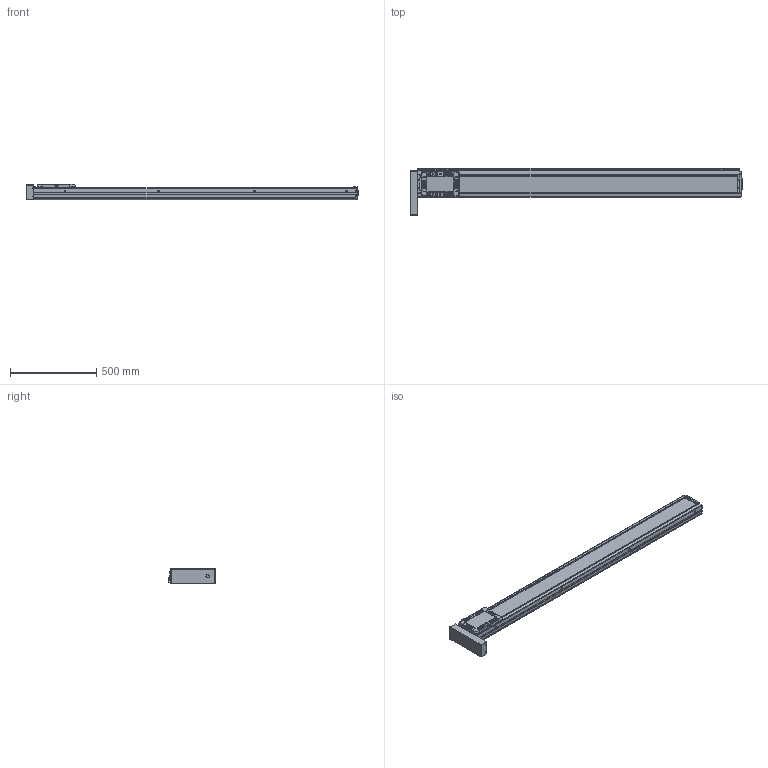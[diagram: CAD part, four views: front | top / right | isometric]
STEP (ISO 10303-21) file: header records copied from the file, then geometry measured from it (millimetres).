
FILE_DESCRIPTION(('STEP AP214'),'1');
FILE_NAME('Z:/Web/3D/SAN150/2013.04 (STP.)/SAN150ㅁㅁ-1600PR+3SL.stp','2013-05-07T08:25:35',(' '),(' '),'Spatial InterOp 3D',' ',' ');
FILE_SCHEMA(('automotive_design'));
Length unit declared in the file: millimetre
Products named in the file (62): M3.0 x 6.0; SRL-16x17-360L; SGD-SAN150; EE-SX674; SBK-SX674-352; 스크루 : Round - M3.0 x 6.0; BHCS M4.0 x 10.0; SLBL-SAN150; SLCV-SAN150; FHCS M4.0 x 8.0; SFX-SAN150; RRCV-SAN150; FRBL-SAN150; Spacer; RN15; FRCV-SAN150; Screw 20; BASE-SAN150-000L ; SUS COVER; 스크루 : Round - M5.0 x 6.0; BHCS M3.0 x 6.0; P
Bounding box: 1920 x 273.36 x 90 mm (x, y, z)
Volume: 10673948.4 mm3; surface area: 2046140.8 mm2
Topology: 62 solids, 62 shells, 2952 faces, 7590 edges, 4847 vertices
Faces by surface type: plane 1458, cylinder 1003, cone 370, sphere 88, bspline 21, torus 12
Entity records: 117482 total; most frequent: CARTESIAN_POINT 19337, DIRECTION 16100, ORIENTED_EDGE 14860, EDGE_CURVE 7430, AXIS2_PLACEMENT_3D 5813, VERTEX_POINT 4847, LINE 4474, VECTOR 4474
